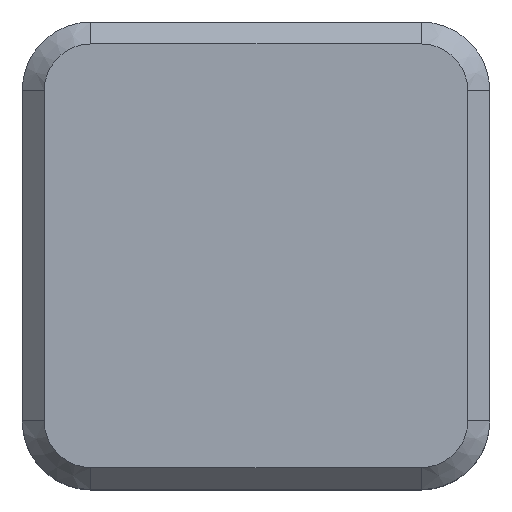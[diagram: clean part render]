
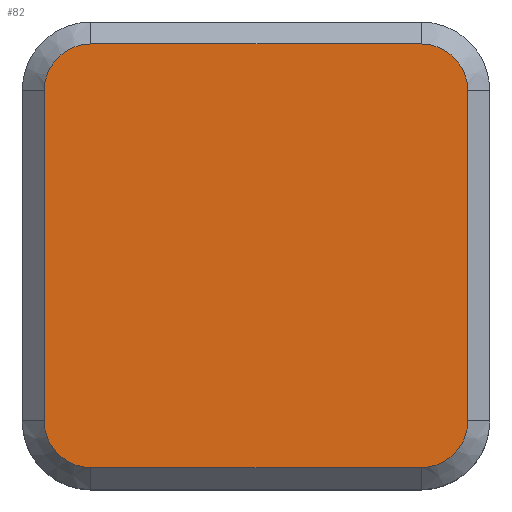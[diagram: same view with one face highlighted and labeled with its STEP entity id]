
A CAD part, top view. The second image highlights one B-rep face of the part: STEP entity #82.
In plain terms, the highlighted planar face has unit normal (0, 0, 1).
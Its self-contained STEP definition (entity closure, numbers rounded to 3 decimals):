
#60=CIRCLE('',#511,8.5);
#61=CIRCLE('',#512,8.5);
#62=CIRCLE('',#513,8.5);
#63=CIRCLE('',#514,8.5);
#82=ADVANCED_FACE('',(#123),#105,.F.);
#105=PLANE('',#515);
#123=FACE_OUTER_BOUND('',#151,.T.);
#151=EDGE_LOOP('',(#236,#237,#238,#239,#240,#241,#242,#243));
#236=ORIENTED_EDGE('',*,*,#376,.T.);
#237=ORIENTED_EDGE('',*,*,#377,.T.);
#238=ORIENTED_EDGE('',*,*,#378,.T.);
#239=ORIENTED_EDGE('',*,*,#379,.T.);
#240=ORIENTED_EDGE('',*,*,#380,.T.);
#241=ORIENTED_EDGE('',*,*,#381,.T.);
#242=ORIENTED_EDGE('',*,*,#382,.T.);
#243=ORIENTED_EDGE('',*,*,#383,.T.);
#324=VERTEX_POINT('',#764);
#325=VERTEX_POINT('',#765);
#326=VERTEX_POINT('',#767);
#327=VERTEX_POINT('',#769);
#328=VERTEX_POINT('',#771);
#329=VERTEX_POINT('',#773);
#330=VERTEX_POINT('',#775);
#331=VERTEX_POINT('',#777);
#376=EDGE_CURVE('',#324,#325,#428,.T.);
#377=EDGE_CURVE('',#325,#326,#60,.T.);
#378=EDGE_CURVE('',#326,#327,#429,.T.);
#379=EDGE_CURVE('',#327,#328,#61,.T.);
#380=EDGE_CURVE('',#328,#329,#430,.T.);
#381=EDGE_CURVE('',#329,#330,#62,.T.);
#382=EDGE_CURVE('',#330,#331,#431,.T.);
#383=EDGE_CURVE('',#331,#324,#63,.T.);
#428=LINE('',#763,#472);
#429=LINE('',#768,#473);
#430=LINE('',#772,#474);
#431=LINE('',#776,#475);
#472=VECTOR('',#618,1.);
#473=VECTOR('',#621,1.);
#474=VECTOR('',#624,1.);
#475=VECTOR('',#627,1.);
#511=AXIS2_PLACEMENT_3D('',#766,#619,#620);
#512=AXIS2_PLACEMENT_3D('',#770,#622,#623);
#513=AXIS2_PLACEMENT_3D('',#774,#625,#626);
#514=AXIS2_PLACEMENT_3D('',#778,#628,#629);
#515=AXIS2_PLACEMENT_3D('',#779,#630,#631);
#618=DIRECTION('',(0.,-1.,0.));
#619=DIRECTION('',(0.,0.,1.));
#620=DIRECTION('',(-1.,0.,0.));
#621=DIRECTION('',(1.,0.,0.));
#622=DIRECTION('',(0.,0.,1.));
#623=DIRECTION('',(-1.,0.,0.));
#624=DIRECTION('',(0.,1.,0.));
#625=DIRECTION('',(0.,0.,1.));
#626=DIRECTION('',(-1.,0.,0.));
#627=DIRECTION('',(-1.,0.,0.));
#628=DIRECTION('',(0.,0.,1.));
#629=DIRECTION('',(-1.,0.,0.));
#630=DIRECTION('',(0.,0.,-1.));
#631=DIRECTION('',(-1.,0.,0.));
#763=CARTESIAN_POINT('',(-38.5,-30.,55.));
#764=CARTESIAN_POINT('',(-38.5,30.,55.));
#765=CARTESIAN_POINT('',(-38.5,-30.,55.));
#766=CARTESIAN_POINT('',(-30.,-30.,55.));
#767=CARTESIAN_POINT('',(-30.,-38.5,55.));
#768=CARTESIAN_POINT('',(30.,-38.5,55.));
#769=CARTESIAN_POINT('',(30.,-38.5,55.));
#770=CARTESIAN_POINT('',(30.,-30.,55.));
#771=CARTESIAN_POINT('',(38.5,-30.,55.));
#772=CARTESIAN_POINT('',(38.5,30.,55.));
#773=CARTESIAN_POINT('',(38.5,30.,55.));
#774=CARTESIAN_POINT('',(30.,30.,55.));
#775=CARTESIAN_POINT('',(30.,38.5,55.));
#776=CARTESIAN_POINT('',(-30.,38.5,55.));
#777=CARTESIAN_POINT('',(-30.,38.5,55.));
#778=CARTESIAN_POINT('',(-30.,30.,55.));
#779=CARTESIAN_POINT('',(-42.5,-42.5,55.));
